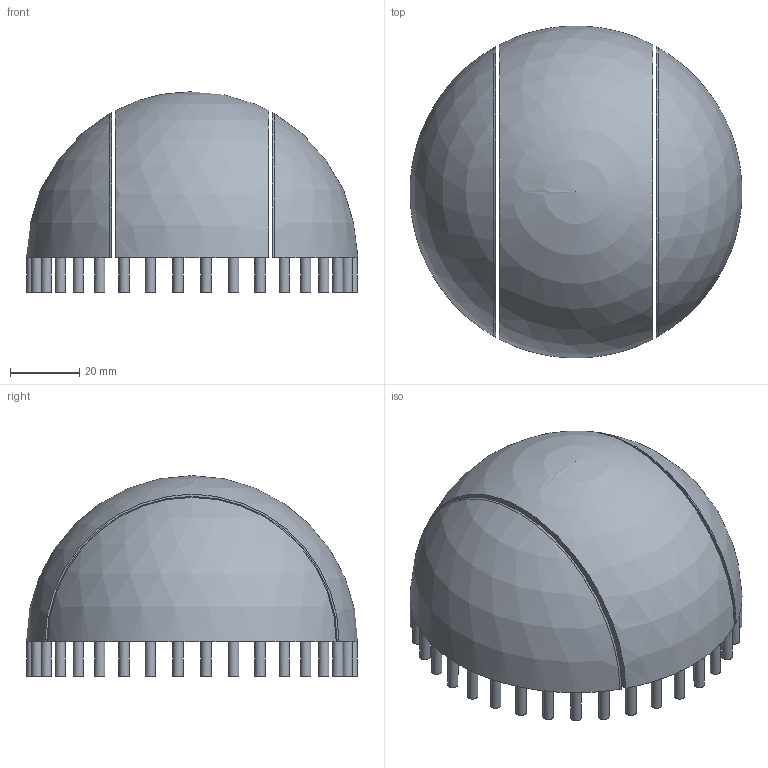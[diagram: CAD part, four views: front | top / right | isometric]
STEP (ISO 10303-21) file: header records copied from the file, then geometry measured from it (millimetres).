
FILE_DESCRIPTION(('Open CASCADE Model'),'2;1');
FILE_NAME('Open CASCADE Shape Model','2026-11-20T06:39:38',('Author'),( 'Open CASCADE'),'Open CASCADE STEP processor 7.8','Open CASCADE 7.8' ,'Unknown');
FILE_SCHEMA(('AUTOMOTIVE_DESIGN { 1 0 10303 214 1 1 1 1 }'));
Length unit declared in the file: millimetre
Products named in the file (4): B01_partition_inward_050_water; Water_Xminus; Water_Center; Water_Xplus
Assembly tree (3 placements, depth 2):
  B01_partition_inward_050_water
    Water_Xminus
    Water_Center
    Water_Xplus
Bounding box: 95.76 x 95.76 x 57.9 mm (x, y, z)
Volume: 42266.6 mm3; surface area: 32503.1 mm2
Topology: 3 solids, 3 shells, 126 faces, 294 edges, 172 vertices
Faces by surface type: plane 80, cylinder 36, sphere 10
Full cylindrical faces by diameter (mm): 3 x36
Entity records: 9539 total; most frequent: CARTESIAN_POINT 4013, DIRECTION 1094, ORIENTED_EDGE 584, PCURVE 584, DEFINITIONAL_REPRESENTATION 584, AXIS2_PLACEMENT_3D 378, LINE 328, VECTOR 328
